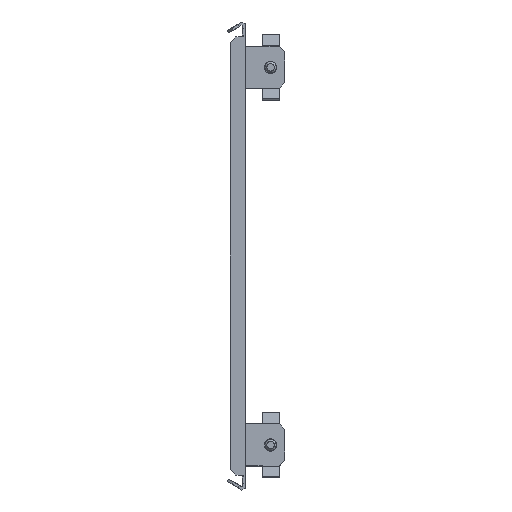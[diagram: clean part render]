
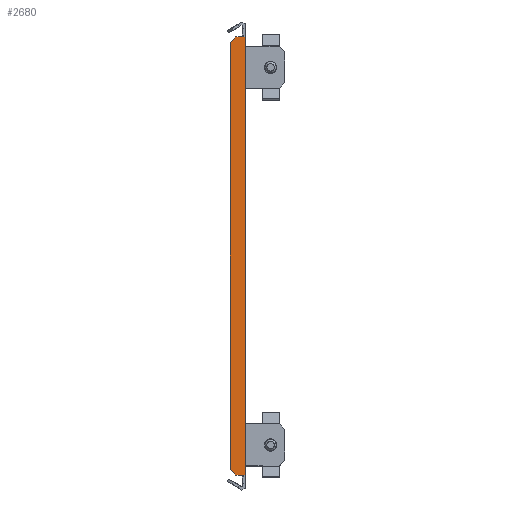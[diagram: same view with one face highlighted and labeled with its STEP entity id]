
A CAD part, front view. The second image highlights one B-rep face of the part: STEP entity #2680.
In plain terms, the highlighted planar face has unit normal (0, -1, 0).
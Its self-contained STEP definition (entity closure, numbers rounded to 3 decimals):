
#164 = VERTEX_POINT ( 'NONE', #15704 ) ;
#206 = CARTESIAN_POINT ( 'NONE',  ( -6.935, -154.461, -115.739 ) ) ;
#208 = ORIENTED_EDGE ( 'NONE', *, *, #12877, .T. ) ;
#231 = VERTEX_POINT ( 'NONE', #7419 ) ;
#344 = LINE ( 'NONE', #1714, #5673 ) ;
#587 = LINE ( 'NONE', #13532, #10202 ) ;
#648 = EDGE_CURVE ( 'NONE', #10909, #10073, #344, .T. ) ;
#1269 = EDGE_CURVE ( 'NONE', #13469, #3776, #11414, .T. ) ;
#1621 = AXIS2_PLACEMENT_3D ( 'NONE', #7917, #7622, #1665 ) ;
#1665 = DIRECTION ( 'NONE',  ( 1., 0., 0. ) ) ;
#1714 = CARTESIAN_POINT ( 'NONE',  ( -4.435, -154.461, -115.739 ) ) ;
#2082 = ORIENTED_EDGE ( 'NONE', *, *, #2983, .T. ) ;
#2208 = CARTESIAN_POINT ( 'NONE',  ( -4.435, -154.461, 0.158 ) ) ;
#2305 = LINE ( 'NONE', #2208, #11666 ) ;
#2424 = EDGE_CURVE ( 'NONE', #8463, #2867, #13980, .T. ) ;
#2534 = DIRECTION ( 'NONE',  ( 0., 0., 1. ) ) ;
#2680 = ADVANCED_FACE ( 'NONE', ( #4916 ), #14921, .F. ) ;
#2867 = VERTEX_POINT ( 'NONE', #18376 ) ;
#2902 = LINE ( 'NONE', #4429, #5583 ) ;
#2935 = VECTOR ( 'NONE', #7486, 1000. ) ;
#2983 = EDGE_CURVE ( 'NONE', #13698, #10909, #2902, .T. ) ;
#3288 = LINE ( 'NONE', #10179, #12976 ) ;
#3384 = ORIENTED_EDGE ( 'NONE', *, *, #648, .T. ) ;
#3488 = ORIENTED_EDGE ( 'NONE', *, *, #12112, .T. ) ;
#3776 = VERTEX_POINT ( 'NONE', #12296 ) ;
#3823 = VECTOR ( 'NONE', #2534, 1000. ) ;
#4327 = ORIENTED_EDGE ( 'NONE', *, *, #1269, .F. ) ;
#4429 = CARTESIAN_POINT ( 'NONE',  ( -64.884, -154.461, -60.291 ) ) ;
#4916 = FACE_OUTER_BOUND ( 'NONE', #18333, .T. ) ;
#5055 = CARTESIAN_POINT ( 'NONE',  ( -9.435, -154.461, 116.055 ) ) ;
#5583 = VECTOR ( 'NONE', #10280, 1000. ) ;
#5673 = VECTOR ( 'NONE', #9093, 1000. ) ;
#5884 = VECTOR ( 'NONE', #8018, 1000. ) ;
#6108 = VERTEX_POINT ( 'NONE', #5055 ) ;
#6217 = DIRECTION ( 'NONE',  ( 0., 0., 1. ) ) ;
#6247 = LINE ( 'NONE', #206, #19008 ) ;
#6301 = CARTESIAN_POINT ( 'NONE',  ( -6.935, -154.461, -115.739 ) ) ;
#6480 = VERTEX_POINT ( 'NONE', #15824 ) ;
#6993 = EDGE_CURVE ( 'NONE', #231, #164, #16153, .T. ) ;
#7297 = ORIENTED_EDGE ( 'NONE', *, *, #6993, .T. ) ;
#7392 = CARTESIAN_POINT ( 'NONE',  ( -4.435, -154.461, 0.158 ) ) ;
#7419 = CARTESIAN_POINT ( 'NONE',  ( -4.435, -154.461, 88.908 ) ) ;
#7486 = DIRECTION ( 'NONE',  ( 1., 0., 0. ) ) ;
#7586 = CARTESIAN_POINT ( 'NONE',  ( -4.435, -154.461, 116.055 ) ) ;
#7622 = DIRECTION ( 'NONE',  ( 0., 1., 0. ) ) ;
#7691 = DIRECTION ( 'NONE',  ( 0., 0., 1. ) ) ;
#7905 = DIRECTION ( 'NONE',  ( 1., 0., 0. ) ) ;
#7917 = CARTESIAN_POINT ( 'NONE',  ( -4.435, -154.461, 0.158 ) ) ;
#8018 = DIRECTION ( 'NONE',  ( 0., 0., 1. ) ) ;
#8048 = DIRECTION ( 'NONE',  ( 0., 0., 1. ) ) ;
#8463 = VERTEX_POINT ( 'NONE', #16758 ) ;
#8806 = ORIENTED_EDGE ( 'NONE', *, *, #2424, .T. ) ;
#9093 = DIRECTION ( 'NONE',  ( 1., 0., 0. ) ) ;
#9496 = LINE ( 'NONE', #12099, #16072 ) ;
#9897 = LINE ( 'NONE', #18558, #3823 ) ;
#10073 = VERTEX_POINT ( 'NONE', #6301 ) ;
#10179 = CARTESIAN_POINT ( 'NONE',  ( -64.884, -154.461, 60.606 ) ) ;
#10202 = VECTOR ( 'NONE', #7691, 1000. ) ;
#10280 = DIRECTION ( 'NONE',  ( 0.707, 0., -0.707 ) ) ;
#10909 = VERTEX_POINT ( 'NONE', #18169 ) ;
#11066 = LINE ( 'NONE', #16944, #18827 ) ;
#11414 = LINE ( 'NONE', #7586, #2935 ) ;
#11666 = VECTOR ( 'NONE', #8048, 1000. ) ;
#11949 = EDGE_CURVE ( 'NONE', #6108, #6480, #3288, .T. ) ;
#12099 = CARTESIAN_POINT ( 'NONE',  ( -4.435, -154.461, 116.055 ) ) ;
#12112 = EDGE_CURVE ( 'NONE', #2867, #231, #587, .T. ) ;
#12124 = EDGE_CURVE ( 'NONE', #13469, #6108, #9496, .T. ) ;
#12296 = CARTESIAN_POINT ( 'NONE',  ( -4.435, -154.461, 116.055 ) ) ;
#12613 = CARTESIAN_POINT ( 'NONE',  ( -4.435, -154.461, 0.158 ) ) ;
#12753 = VECTOR ( 'NONE', #6217, 1000. ) ;
#12877 = EDGE_CURVE ( 'NONE', #164, #3776, #9897, .T. ) ;
#12976 = VECTOR ( 'NONE', #19020, 1000. ) ;
#13094 = DIRECTION ( 'NONE',  ( 0., 0., -1. ) ) ;
#13469 = VERTEX_POINT ( 'NONE', #18379 ) ;
#13532 = CARTESIAN_POINT ( 'NONE',  ( -4.435, -154.461, 0.158 ) ) ;
#13642 = ORIENTED_EDGE ( 'NONE', *, *, #15463, .T. ) ;
#13698 = VERTEX_POINT ( 'NONE', #14037 ) ;
#13980 = LINE ( 'NONE', #12613, #5884 ) ;
#14037 = CARTESIAN_POINT ( 'NONE',  ( -12.435, -154.461, -112.739 ) ) ;
#14041 = ORIENTED_EDGE ( 'NONE', *, *, #12124, .T. ) ;
#14817 = EDGE_CURVE ( 'NONE', #10073, #15660, #6247, .T. ) ;
#14921 = PLANE ( 'NONE',  #1621 ) ;
#15452 = ORIENTED_EDGE ( 'NONE', *, *, #17521, .T. ) ;
#15463 = EDGE_CURVE ( 'NONE', #15660, #8463, #2305, .T. ) ;
#15660 = VERTEX_POINT ( 'NONE', #17921 ) ;
#15704 = CARTESIAN_POINT ( 'NONE',  ( -4.435, -154.461, 111.253 ) ) ;
#15824 = CARTESIAN_POINT ( 'NONE',  ( -12.435, -154.461, 113.055 ) ) ;
#16072 = VECTOR ( 'NONE', #18155, 1000. ) ;
#16153 = LINE ( 'NONE', #7392, #12753 ) ;
#16758 = CARTESIAN_POINT ( 'NONE',  ( -4.435, -154.461, -110.937 ) ) ;
#16944 = CARTESIAN_POINT ( 'NONE',  ( -12.435, -154.461, 0.158 ) ) ;
#17521 = EDGE_CURVE ( 'NONE', #6480, #13698, #11066, .T. ) ;
#17870 = ORIENTED_EDGE ( 'NONE', *, *, #14817, .T. ) ;
#17921 = CARTESIAN_POINT ( 'NONE',  ( -4.435, -154.461, -115.739 ) ) ;
#18028 = ORIENTED_EDGE ( 'NONE', *, *, #11949, .T. ) ;
#18155 = DIRECTION ( 'NONE',  ( -1., 0., 0. ) ) ;
#18169 = CARTESIAN_POINT ( 'NONE',  ( -9.435, -154.461, -115.739 ) ) ;
#18333 = EDGE_LOOP ( 'NONE', ( #3384, #17870, #13642, #8806, #3488, #7297, #208, #4327, #14041, #18028, #15452, #2082 ) ) ;
#18376 = CARTESIAN_POINT ( 'NONE',  ( -4.435, -154.461, -88.592 ) ) ;
#18379 = CARTESIAN_POINT ( 'NONE',  ( -6.935, -154.461, 116.055 ) ) ;
#18558 = CARTESIAN_POINT ( 'NONE',  ( -4.435, -154.461, 0.158 ) ) ;
#18827 = VECTOR ( 'NONE', #13094, 1000. ) ;
#19008 = VECTOR ( 'NONE', #7905, 1000. ) ;
#19020 = DIRECTION ( 'NONE',  ( -0.707, 0., -0.707 ) ) ;
